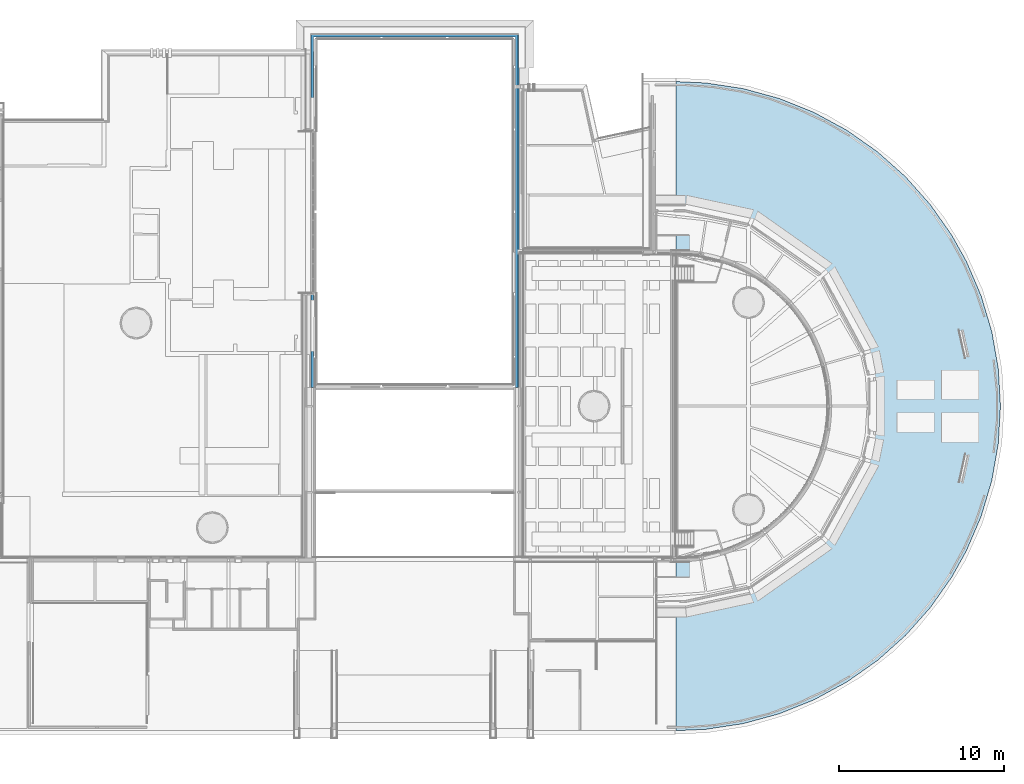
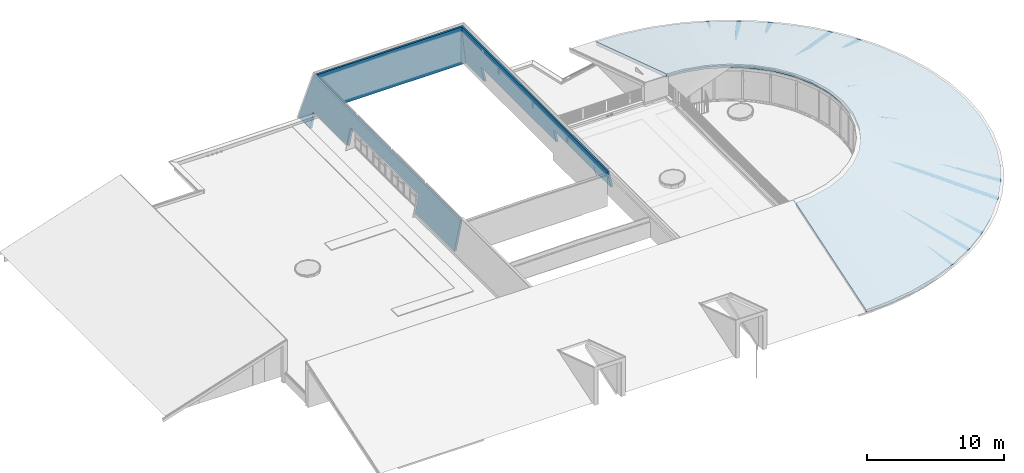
# One storey, part 54 of 66: 2 roofs.
"""IFC2X3 building model written with IfcOpenShell, lengths in millimetres."""

import ifcopenshell
import ifcopenshell.guid

model = None  # the IFC model being written
_history = None  # IfcOwnerHistory: only IFC2X3 demands one
_inside = {}  # id of a spatial element -> (the spatial element, [elements in it])
_under = {}  # id of a project, library or spatial element -> (it, [spatial elements below it])
_declared = {}  # id of a project -> (the project, [libraries it declares])
_typed = {}  # id of a type object -> (the type object, [elements of that type])
_made_of = {}  # id of a material, layer set ... -> (it, [elements and type objects made of it])


def new_model(schema):
    """Start an empty IFC model of exactly this schema.

    Asked for "IFC4X3", IfcOpenShell would pick the latest addendum, in which some entities
    have other attributes; the version numbers below select the first issue.
    IFC2X3 requires an IfcOwnerHistory on every rooted entity: one is made here for all.
    """
    global model, _history
    if schema == "IFC4X3":
        model = ifcopenshell.file(schema_version=(4, 3, 0, 0))
    else:
        model = ifcopenshell.file(schema=schema)
    _inside.clear()
    _under.clear()
    _declared.clear()
    _typed.clear()
    _made_of.clear()
    _history = None
    if model.schema == "IFC2X3":
        org = make("IfcOrganization", Name="unknown")
        user = make(
            "IfcPersonAndOrganization",
            ThePerson=make("IfcPerson", FamilyName="unknown"),
            TheOrganization=org,
        )
        app = make(
            "IfcApplication",
            ApplicationDeveloper=org,
            Version="unknown",
            ApplicationFullName="unknown",
            ApplicationIdentifier="unknown",
        )
        _history = make(
            "IfcOwnerHistory",
            OwningUser=user,
            OwningApplication=app,
            ChangeAction="ADDED",
            CreationDate=0,
        )
    return model


def make(cls, **values):
    """One entity of the class cls with the attributes given. An attribute that is None is left unset."""
    return model.create_entity(
        cls, **{name: value for name, value in values.items() if value is not None}
    )


def entity(cls, *values):
    """Any entity or typed value of the class cls, its attributes in the order of the schema. None: left unset."""
    e = model.create_entity(cls)
    for i, value in enumerate(values):
        if value is not None:
            e[i] = value
    return e


def rooted(cls, **values):
    """An entity with a GlobalId (a new one), such as an element, a storey or a relation."""
    return make(cls, GlobalId=ifcopenshell.guid.new(), OwnerHistory=_history, **values)


def si_unit(unit_type, name, prefix=None):
    """IfcSIUnit, for example si_unit("LENGTHUNIT", "METRE", prefix="MILLI")."""
    return make("IfcSIUnit", UnitType=unit_type, Prefix=prefix, Name=name)


def converted_unit(unit_type, name, factor, base, dimensions=None, offset=None):
    """IfcConversionBasedUnit, such as the inch: factor (a typed value) times the base unit."""
    return make(
        "IfcConversionBasedUnit"
        if offset is None
        else "IfcConversionBasedUnitWithOffset",
        ConversionOffset=offset,
        Dimensions=None
        if dimensions is None
        else entity("IfcDimensionalExponents", *dimensions),
        UnitType=unit_type,
        Name=name,
        ConversionFactor=make(
            "IfcMeasureWithUnit", ValueComponent=factor, UnitComponent=base
        ),
    )


def derived_unit(unit_type, elements):
    """IfcDerivedUnit: a product of units, each with its exponent."""
    return make(
        "IfcDerivedUnit",
        Elements=[
            make("IfcDerivedUnitElement", Unit=unit, Exponent=power)
            for unit, power in elements
        ],
        UnitType=unit_type,
    )


def assignment(units):
    """IfcUnitAssignment: the units of a project."""
    return None if units is None else make("IfcUnitAssignment", Units=units)


def point(xyz):
    """IfcCartesianPoint."""
    return None if xyz is None else make("IfcCartesianPoint", Coordinates=xyz)


def direction(xyz):
    """IfcDirection."""
    return None if xyz is None else make("IfcDirection", DirectionRatios=xyz)


def frame(location, z_axis=None, x_axis=None):
    """IfcAxis2Placement3D, a coordinate frame: its origin and axes. An axis left out is left unset."""
    return make(
        "IfcAxis2Placement3D",
        Location=point(location),
        Axis=direction(z_axis),
        RefDirection=direction(x_axis),
    )


def origin():
    """The frame at (0, 0, 0) with its axes left unset."""
    return frame((0.0, 0.0, 0.0))


def place(relative_to, where):
    """IfcLocalPlacement: puts the frame where relative to a parent placement (None: the world)."""
    return make(
        "IfcLocalPlacement", PlacementRelTo=relative_to, RelativePlacement=where
    )


def context(
    kind, dimensions, precision=None, world=None, true_north=None, identifier=None
):
    """IfcGeometricRepresentationContext, for example the 3D "Model" context."""
    return make(
        "IfcGeometricRepresentationContext",
        ContextIdentifier=identifier,
        ContextType=kind,
        CoordinateSpaceDimension=dimensions,
        Precision=precision,
        WorldCoordinateSystem=world,
        TrueNorth=true_north,
    )


def subcontext(parent, identifier, kind, view, scale=None):
    """IfcGeometricRepresentationSubContext, for example "Body" below "Model"."""
    return make(
        "IfcGeometricRepresentationSubContext",
        ContextIdentifier=identifier,
        ContextType=kind,
        ParentContext=parent,
        TargetScale=scale,
        TargetView=view,
    )


def project(units=None, contexts=None):
    """IfcProject with its units and contexts."""
    return rooted(
        "IfcProject",
        Name="project",
        RepresentationContexts=contexts,
        UnitsInContext=assignment(units),
    )


def spatial(cls, under=None, at=None, **own):
    """A site, building, storey or space (cls), placed at a placement, below another one or the project."""
    s = rooted(cls, ObjectPlacement=at, **own)
    if under is not None:
        _under.setdefault(under.id(), (under, []))[1].append(s)
    return s


def faces_of(points, faces, orient=None, outer=None):
    """IfcFace entities. A face is a list of loops; a loop is a list of indices into points, from 0.

    orient and outer hold one flag for each loop. By default every Orientation is true, the
    first loop of a face is its IfcFaceOuterBound and the others are IfcFaceBound.
    """
    made = []
    for i, loops in enumerate(faces):
        bounds = []
        for j, loop in enumerate(loops):
            is_outer = j == 0 if outer is None else outer[i][j]
            bounds.append(
                make(
                    "IfcFaceOuterBound" if is_outer else "IfcFaceBound",
                    Bound=make("IfcPolyLoop", Polygon=[points[k] for k in loop]),
                    Orientation=True if orient is None else orient[i][j],
                )
            )
        made.append(make("IfcFace", Bounds=bounds))
    return made


def faceted_brep(points, faces, orient=None, outer=None, voids=None):
    """IfcFacetedBrep: a solid bounded by flat faces; with voids (closed shells), ...WithVoids."""
    shared = [point(p) for p in points]
    hull = make("IfcClosedShell", CfsFaces=faces_of(shared, faces, orient, outer))
    if voids is None:
        return make("IfcFacetedBrep", Outer=hull)
    return make(
        "IfcFacetedBrepWithVoids",
        Outer=hull,
        Voids=[
            make(cls, CfsFaces=faces_of(shared, fs, o, b)) for cls, fs, o, b in voids
        ],
    )


def shape(context_of_items, identifier, shape_type, items):
    """IfcShapeRepresentation: the items that make up one representation, for example the "Body"."""
    return make(
        "IfcShapeRepresentation",
        ContextOfItems=context_of_items,
        RepresentationIdentifier=identifier,
        RepresentationType=shape_type,
        Items=items,
    )


def material(Name=None, Category=None):
    """IfcMaterial."""
    return make("IfcMaterial", Name=Name, Category=Category)


def layer(
    of_material, thickness, ventilated=None, Name=None, Category=None, Priority=None
):
    """IfcMaterialLayer: one layer of a wall or slab, of a material (None: an air gap)."""
    return make(
        "IfcMaterialLayer",
        Material=of_material,
        LayerThickness=thickness,
        IsVentilated=ventilated,
        Name=Name,
        Category=Category,
        Priority=Priority,
    )


def layer_set(layers, Name=None):
    """IfcMaterialLayerSet."""
    return make("IfcMaterialLayerSet", MaterialLayers=layers, LayerSetName=Name)


def made_of(thing, what):
    """Note that an element or type object is made of a material, layer set ...; save() writes the relation."""
    if what is not None:
        _made_of.setdefault(what.id(), (what, []))[1].append(thing)
    return thing


def element(
    cls,
    number,
    at=None,
    inside=None,
    cuts=None,
    type_object=None,
    material=None,
    context=None,
    identifier="Body",
    shape_type=None,
    held_by="IfcProductDefinitionShape",
    body=None,
    shapes=None,
    **own,
):
    """One element of the class cls, such as IfcWall. Its Tag is "e" and its number.

    at: its placement. inside: the storey or other place that contains it. cuts: it is an
    opening in that element (IfcRelVoidsElement). A single representation is given by context,
    identifier, shape_type and body (its items); several are given by shapes. held_by: the class
    of the entity that holds the representations. save() writes the other relations.
    """
    e = rooted(cls, Tag="e%d" % number, ObjectPlacement=at, **own)
    if body is not None:
        shapes = [shape(context, identifier, shape_type, body)]
    if shapes is not None:
        e.Representation = make(held_by, Representations=shapes)
    if inside is not None:
        _inside.setdefault(inside.id(), (inside, []))[1].append(e)
    if cuts is not None:
        rooted(
            "IfcRelVoidsElement", RelatingBuildingElement=cuts, RelatedOpeningElement=e
        )
    if type_object is not None:
        _typed.setdefault(type_object.id(), (type_object, []))[1].append(e)
    return made_of(e, material)


def aggregate(whole, parts):
    """IfcRelAggregates: a whole, such as a stair, and the parts it consists of."""
    return rooted("IfcRelAggregates", RelatingObject=whole, RelatedObjects=parts)


def save(model, path):
    """Write the relations noted so far, then the file.

    IfcRelAggregates (storeys below a building ...), IfcRelContainedInSpatialStructure (elements
    in a storey), IfcRelDefinesByType, IfcRelAssociatesMaterial and IfcRelDeclares: one each for
    every whole, place, type object, material and project.
    """
    for whole, parts in _under.values():
        aggregate(whole, parts)
    for where, things in _inside.values():
        rooted(
            "IfcRelContainedInSpatialStructure",
            RelatedElements=things,
            RelatingStructure=where,
        )
    for kind, things in _typed.values():
        rooted("IfcRelDefinesByType", RelatedObjects=things, RelatingType=kind)
    for what, things in _made_of.values():
        rooted("IfcRelAssociatesMaterial", RelatedObjects=things, RelatingMaterial=what)
    for by, libraries in _declared.values():
        rooted("IfcRelDeclares", RelatingContext=by, RelatedDefinitions=libraries)
    model.write(path)


model = new_model("IFC2X3")

# Units and contexts
model_context = context("Model", 3, precision=0.01, world=origin(), true_north=direction((6.12303176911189e-17, 1.0)))
body_context = subcontext(model_context, "Body", "Model", "MODEL_VIEW")
ifc_project = project(units=[si_unit("LENGTHUNIT", "METRE", prefix="MILLI"), si_unit("AREAUNIT", "SQUARE_METRE"), si_unit("VOLUMEUNIT", "CUBIC_METRE"), converted_unit("PLANEANGLEUNIT", "DEGREE", entity("IfcRatioMeasure", 0.0174532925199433), si_unit("PLANEANGLEUNIT", "RADIAN"), dimensions=[0, 0, 0, 0, 0, 0, 0]), si_unit("MASSUNIT", "GRAM", prefix="KILO"), derived_unit("MASSDENSITYUNIT", [(si_unit("MASSUNIT", "GRAM", prefix="KILO"), 1), (si_unit("LENGTHUNIT", "METRE"), -3)]), derived_unit("MOMENTOFINERTIAUNIT", [(si_unit("LENGTHUNIT", "METRE"), 4)]), si_unit("TIMEUNIT", "SECOND"), si_unit("FREQUENCYUNIT", "HERTZ"), si_unit("THERMODYNAMICTEMPERATUREUNIT", "DEGREE_CELSIUS"), derived_unit("THERMALTRANSMITTANCEUNIT", [(si_unit("MASSUNIT", "GRAM", prefix="KILO"), 1), (si_unit("THERMODYNAMICTEMPERATUREUNIT", "KELVIN"), -1), (si_unit("TIMEUNIT", "SECOND"), -3)]), derived_unit("VOLUMETRICFLOWRATEUNIT", [(si_unit("LENGTHUNIT", "METRE"), 3), (si_unit("TIMEUNIT", "SECOND"), -1)]), si_unit("ELECTRICCURRENTUNIT", "AMPERE"), si_unit("ELECTRICVOLTAGEUNIT", "VOLT"), si_unit("POWERUNIT", "WATT"), si_unit("FORCEUNIT", "NEWTON", prefix="KILO"), si_unit("ILLUMINANCEUNIT", "LUX"), si_unit("LUMINOUSFLUXUNIT", "LUMEN"), si_unit("LUMINOUSINTENSITYUNIT", "CANDELA"), derived_unit("USERDEFINED", [(si_unit("MASSUNIT", "GRAM", prefix="KILO"), -1), (si_unit("LENGTHUNIT", "METRE"), -2), (si_unit("TIMEUNIT", "SECOND"), 3), (si_unit("LUMINOUSFLUXUNIT", "LUMEN"), 1)]), derived_unit("LINEARVELOCITYUNIT", [(si_unit("LENGTHUNIT", "METRE"), 1), (si_unit("TIMEUNIT", "SECOND"), -1)]), si_unit("PRESSUREUNIT", "PASCAL"), derived_unit("USERDEFINED", [(si_unit("LENGTHUNIT", "METRE"), -2), (si_unit("MASSUNIT", "GRAM", prefix="KILO"), 1), (si_unit("TIMEUNIT", "SECOND"), -2)]), derived_unit("LINEARFORCEUNIT", [(si_unit("MASSUNIT", "GRAM", prefix="KILO"), 1), (si_unit("LENGTHUNIT", "METRE"), 1), (si_unit("TIMEUNIT", "SECOND"), -2), (si_unit("LENGTHUNIT", "METRE"), -1)]), derived_unit("PLANARFORCEUNIT", [(si_unit("MASSUNIT", "GRAM", prefix="KILO"), 1), (si_unit("LENGTHUNIT", "METRE"), 1), (si_unit("TIMEUNIT", "SECOND"), -2), (si_unit("LENGTHUNIT", "METRE"), -2)])], contexts=[model_context])

# Site, building, storey
site_placement = place(None, origin())
site = spatial("IfcSite", under=ifc_project, at=site_placement, Name="Default", CompositionType="ELEMENT")
building_placement = place(site_placement, origin())
building = spatial("IfcBuilding", under=site, at=building_placement, Name="-", CompositionType="ELEMENT")
storey_placement = place(building_placement, frame((0.0, 0.0, 3070.0)))
storey = spatial("IfcBuildingStorey", under=building, at=storey_placement, Name="01 eerste verdieping", CompositionType="ELEMENT", Elevation=3070.00000000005)

# Roofs
ifc_material_1 = material(Name="AL_Multiplex")
ifc_layer_1 = layer(ifc_material_1, 18.0)
ifc_material_2 = material(Name="NLRS_m1_isolatie")
ifc_layer_2 = layer(ifc_material_2, 271.0)
ifc_material_3 = material(Name="j7_hout_spaanplaat")
ifc_layer_3 = layer(ifc_material_3, 10.0)
ifc_layer_set_1 = layer_set([ifc_layer_1, ifc_layer_2, ifc_layer_3], Name="Basic Roof:27_Dakelement Rc 6,0m²K/W, aftimmerpakket")
roof_1_placement = place(storey_placement, frame((50644.2442615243, -89.5355013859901, -150.722646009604)))
element("IfcRoof", 1, at=roof_1_placement, inside=storey, material=ifc_layer_set_1, Name="Basic Roof:27_Dakelement Rc 6,0m²K/W, aftimmerpakket", ObjectType="Basic Roof:27_Dakelement Rc 6,0m²K/W, aftimmerpakket", ShapeType="NOTDEFINED", context=body_context, shape_type="Brep", body=[
    faceted_brep([(1.5952722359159, 6729.57307191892, 2157.62646626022), (1.5952722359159, 6675.36285048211, 2140.01249760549), (1.5952722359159, 6666.80334183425, 2137.23134466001), (1.5952722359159, 6658.2438331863, 2134.4501917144), (1.5952722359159, 3586.14751674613, 1136.26559101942), (1.5952722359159, 514.051200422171, 138.080989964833), (1.5952722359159, 509.540475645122, 136.615366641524), (1.5952722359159, 505.029750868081, 135.149743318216), (1.5952722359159, 299.510552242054, 68.3725077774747), (1.5952722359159, 93.9913536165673, 1.59527223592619), (1.5952722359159, 47.7933129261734, 143.778221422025), (1.5952722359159, 1.5952722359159, 285.961170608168), (1.5952722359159, 5698.26193075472, 2136.92036908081), (1.5952722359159, 10255.5952580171, 3617.68772648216), (1.5952722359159, 10255.5952580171, 3303.30052143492), (1.5952722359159, 8519.68927563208, 2739.27047834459), (1.5952722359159, 6783.78329335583, 2175.24043491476), (1.80254533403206, 39363.3971543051, 143.778221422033), (1.80254533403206, 39317.1991136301, 1.5952722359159), (1.80254533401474, 33671.8636152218, 1835.87596662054), (1.80254533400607, 29155.5952162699, 3303.30052143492), (1.80254533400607, 29155.5952162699, 3617.68772648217), (1.80254533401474, 34852.2618712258, 1766.72852913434), (1.80254533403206, 39409.59519498, 285.961170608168), (1112.33919140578, 39265.5032713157, 1.59527223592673), (268.797767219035, 29136.0675190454, 3303.30052143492), (8945.34958513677, 22666.6067755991, 3303.30052143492), (8828.75618462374, 23081.4649024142, 3303.30052143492), (18507.9849051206, 26198.3076342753, 1.59527223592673), (14560.6734410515, 32814.2462955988, 1.59527223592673), (6961.20438569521, 26055.3434131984, 3303.30052143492), (13950.11590951, 33492.3262347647, 1.59527223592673), (4079.37631851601, 38888.728599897, 1.59527223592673), (5179.12718009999, 38587.2077467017, 1.59527223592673), (2215.48440134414, 28852.2662699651, 3303.30052143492), (5691.87784830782, 12197.3125085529, 3303.30052143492), (11324.7625543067, 3733.21598547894, 1.59527223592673), (5336.87267876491, 11953.0327180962, 3303.30052143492), (8243.03586844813, 15080.3303067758, 3303.30052143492), (17070.3328359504, 10114.0612764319, 1.59527223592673), (7998.72502011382, 14725.3465102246, 3303.30052143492), (15171.2309725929, 32136.1663564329, 1.59527223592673), (7265.92506673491, 25750.6360240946, 3303.30052143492), (12255.2282837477, 35018.3744207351, 1.59527223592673), (6047.04234257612, 26969.4655805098, 3303.30052143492), (5692.04253106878, 27213.7531574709, 3303.30052143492), (6278.87804168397, 38285.6868935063, 1.59527223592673), (2634.3285574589, 28750.9210218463, 3303.30052143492), (9394.06553378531, 36884.3532221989, 1.59527223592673), (10394.6344145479, 36337.335217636, 1.59527223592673), (4627.04309654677, 27946.6158883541, 3303.30052143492), (11324.9313491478, 35677.8548191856, 1.59527223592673), (1796.64024522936, 28953.6115180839, 3303.30052143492), (2952.05674230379, 39060.5347568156, 1.59527223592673), (3052.97653860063, 10761.5477727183, 3303.30052143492), (6278.68168765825, 1125.43723779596, 1.59527223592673), (2634.13015971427, 10660.2117114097, 3303.30052143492), (6656.48370465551, 26360.0508023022, 3303.30052143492), (6351.76302361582, 26664.758191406, 3303.30052143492), (7466.62242596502, 25470.1213798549, 3303.30052143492), (15841.5105900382, 31213.6198714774, 1.59527223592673), (8638.74576438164, 23468.2430385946, 3303.30052143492), (18068.5315467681, 27250.5659335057, 1.59527223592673), (8393.30932725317, 1979.73055728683, 1.59527223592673), (4233.3908894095, 11288.7417960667, 3303.30052143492), (9393.88398882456, 2526.73798784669, 1.59527223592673), (9413.0212466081, 20134.6267941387, 3303.30052143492), (9373.72409329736, 20563.761994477, 3303.30052143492), (19559.5439349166, 20616.4024293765, 1.59527223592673), (9452.31839991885, 19705.4915938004, 3303.30052143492), (9334.42693998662, 20992.8971948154, 3303.30052143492), (9295.12978667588, 21422.0323951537, 3303.30052143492), (19321.5592809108, 22880.7443862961, 1.59527223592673), (6046.88301785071, 12441.5922990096, 3303.30052143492), (12255.0664582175, 4392.68655255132, 1.59527223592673), (9061.9429856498, 22251.748648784, 3303.30052143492), (18822.3045398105, 25102.1461727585, 1.59527223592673), (9178.53638616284, 21836.8905219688, 3303.30052143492), (19506.4943873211, 21755.5040613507, 1.59527223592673), (4233.57550080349, 28122.3558596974, 3303.30052143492), (7335.99550745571, 1552.58389754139, 1.59527223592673), (3839.91943913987, 11113.0104549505, 3303.30052143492), (9334.39870249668, 18418.0885788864, 3303.30052143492), (19321.525724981, 16530.2419096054, 1.59527223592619), (9295.09213668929, 17988.9542405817, 3303.30052143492), (6961.06511079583, 13355.6944151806, 3303.30052143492), (7265.79247511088, 13660.3951205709, 3303.30052143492), (14398.2402465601, 6436.37993478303, 1.59527223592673), (6656.3377464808, 13050.9937097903, 3303.30052143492), (7336.18734735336, 37858.529060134, 1.59527223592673), (8393.49665302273, 37431.3712267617, 1.59527223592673), (3840.10790506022, 28298.0958310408, 3303.30052143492), (689.799317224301, 29105.2759912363, 3303.30052143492), (1221.06240606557, 39260.4421702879, 1.59527223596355), (1824.73716609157, 39232.3409137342, 1.59527223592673), (19136.6241745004, 24005.9847112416, 1.59527223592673), (13102.6720966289, 34255.3503277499, 1.59527223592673), (19136.5787270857, 15405.0035391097, 1.59527223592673), (7868.01714442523, 24909.0920913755, 3303.30052143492), (7667.31978519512, 25189.6067356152, 3303.30052143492), (5337.04271956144, 27458.0407344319, 3303.30052143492), (268.590922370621, 10275.1170990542, 3303.30052143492), (3446.64030931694, 28473.8358023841, 3303.30052143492), (3053.17271357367, 28649.5757737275, 3303.30052143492), (8448.73534413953, 23855.021174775, 3303.30052143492), (8258.72492389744, 24241.7993109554, 3303.30052143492), (17629.0781884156, 28302.824232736, 1.59527223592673), (5178.9276396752, 823.928006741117, 1.59527223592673), (4079.17359169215, 522.418775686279, 1.59527223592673), (2215.28378082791, 10558.8756501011, 3303.30052143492), (19506.4727228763, 17655.4802801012, 1.59527223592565), (9373.70526830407, 18847.222917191, 3303.30052143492), (4982.04290805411, 27702.328311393, 3303.30052143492), (19612.5934825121, 19477.3007974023, 1.59527223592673), (9413.01183411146, 19276.3572554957, 3303.30052143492), (19559.5331026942, 18566.3905387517, 1.59527223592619), (4981.86750922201, 11708.7529276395, 3303.30052143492), (10394.4586503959, 3073.74541840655, 1.59527223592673), (4626.86233967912, 11464.4731371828, 3303.30052143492), (9061.88713700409, 17159.2431017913, 3303.30052143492), (9178.48963684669, 17574.0986711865, 3303.30052143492), (18822.2475082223, 14308.8453993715, 1.59527223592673), (8945.28463716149, 16744.3875323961, 3303.30052143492), (18507.9162893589, 13212.6872596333, 1.59527223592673), (1033.79770316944, 29080.1163787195, 3303.30052143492), (3446.44798887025, 10937.2791138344, 3303.30052143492), (16511.6783396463, 9119.94260332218, 1.59527223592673), (15841.3889728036, 8197.40320190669, 1.59527223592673), (7754.4141717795, 14370.3627136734, 3303.30052143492), (8068.71450365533, 24628.5774471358, 3303.30052143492), (17070.4341979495, 29296.9488096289, 1.59527223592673), (17628.9873322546, 11108.1799495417, 1.59527223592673), (8389.44743566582, 15392.6307208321, 3303.30052143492), (1377.7960891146, 29054.9567662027, 3303.30052143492), (8535.85900288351, 15704.9311348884, 3303.30052143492), (8682.2705701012, 16017.2315489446, 3303.30052143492), (8828.68213731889, 16329.5319630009, 3303.30052143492), (18068.4518108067, 12160.4336045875, 1.59527223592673), (1796.43740194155, 10457.5395887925, 3303.30052143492), (2951.85219990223, 350.624532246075, 1.59527223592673), (1377.5910230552, 10356.2035274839, 3303.30052143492), (16511.7902074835, 30291.0733865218, 1.59527223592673), (1112.13246458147, 145.675459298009, 1.5952722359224), (689.593147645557, 10305.8993927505, 3303.30052143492), (13625.3808871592, 5597.89606907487, 1.59527223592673), (15171.0996059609, 7274.8638004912, 1.59527223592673), (7510.10332344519, 14015.3789171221, 3303.30052143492), (6351.61038216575, 12746.2930043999, 3303.30052143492), (12940.2236726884, 4995.29131081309, 1.59527223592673), (1824.53080811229, 178.830288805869, 1.59527223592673), (847.164436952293, 10317.4204855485, 3303.30052143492), (1033.59208535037, 10331.0514601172, 3303.30052143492), (1220.85573336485, 150.735411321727, 1.59527223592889), (266.190144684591, 29136.2582373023, 3617.68772648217), (1106.69742291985, 39358.5407866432, 285.961170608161), (6656.3377464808, 13050.9937097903, 3617.68772648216), (6351.61038216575, 12746.2930043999, 3617.68772648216), (13934.8580909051, 5772.47093437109, 285.961170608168), (6961.06511079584, 13355.6944151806, 3617.68772648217), (12236.4602890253, 35151.4162549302, 285.961170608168), (6047.04234257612, 26969.4655805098, 3617.68772648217), (13085.7324677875, 34394.9946151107, 285.961170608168), (9061.88713700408, 17159.2431017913, 3617.68772648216), (18859.0367616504, 14103.9570245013, 285.961170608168), (19182.8972108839, 15194.1640416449, 285.961170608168), (1106.49068679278, 52.6380582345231, 285.961170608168), (9373.70526830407, 18847.222917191, 3617.68772648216), (19575.0196918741, 17434.6969432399, 285.961170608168), (19640.6690317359, 18570.0942723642, 285.961170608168), (5166.30614802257, 38686.8335588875, 285.961170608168), (2215.48440134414, 28852.2662699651, 3617.68772648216), (2634.3285574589, 28750.9210218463, 3617.68772648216), (4068.89997036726, 38985.3911112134, 285.961170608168), (10374.885016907, 36458.4301146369, 285.961170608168), (4627.04309654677, 27946.6158883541, 3617.68772648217), (4982.04290805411, 27702.328311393, 3617.68772648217), (5337.04271956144, 27458.0407344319, 3617.68772648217), (2634.13015971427, 10660.2117114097, 3617.68772648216), (6263.51581041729, 1022.8485943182, 285.961170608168), (3052.97653860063, 10761.5477727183, 3617.68772648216), (265.983295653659, 10274.926437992, 3617.68772648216), (12236.2978205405, 4259.64552105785, 285.961170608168), (6046.88301785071, 12441.5922990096, 3617.68772648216), (5691.87784830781, 12197.3125085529, 3617.68772648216), (7265.92506673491, 25750.6360240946, 3617.68772648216), (14691.4440544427, 32789.3166223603, 285.961170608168), (6961.20438569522, 26055.3434131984, 3617.68772648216), (18087.8323854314, 11968.1304102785, 285.961170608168), (8828.68213731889, 16329.5319630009, 3617.68772648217), (8638.66323366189, 15942.7579945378, 3617.68772648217), (13935.0046465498, 33638.5729752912, 285.961170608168), (6351.76302361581, 26664.758191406, 3617.68772648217), (6656.48370465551, 26360.0508023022, 3617.68772648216), (18087.9137714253, 27442.8698164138, 285.961170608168), (8535.94675004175, 23706.07215306, 3617.68772648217), (8682.35146733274, 23393.7685277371, 3617.68772648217), (8828.75618462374, 23081.4649024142, 3617.68772648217), (15447.8834623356, 31940.0602694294, 285.961170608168), (7510.22812891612, 25395.6468689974, 3617.68772648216), (16101.4098657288, 31009.2863060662, 285.961170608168), (19640.6809744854, 20840.8896210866, 285.961170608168), (9373.72409329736, 20563.761994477, 3617.68772648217), (9413.0212466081, 20134.6267941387, 3617.68772648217), (9374.98550371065, 37000.3137684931, 285.961170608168), (4233.57550080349, 28122.3558596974, 3617.68772648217), (8374.89837466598, 1868.9049698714, 285.961170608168), (3839.91943913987, 11113.0104549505, 3617.68772648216), (7319.20709254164, 1445.8767820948, 285.961170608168), (19182.9446635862, 24216.8246667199, 285.961170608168), (9061.9429856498, 22251.748648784, 3617.68772648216), (9178.53638616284, 21836.8905219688, 3617.68772648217), (9295.12978667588, 21422.0323951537, 3617.68772648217), (17640.4884584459, 10922.5108131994, 285.961170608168), (6263.7123256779, 38388.2760065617, 285.961170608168), (7319.3991580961, 37965.2367144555, 285.961170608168), (3840.10790506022, 28298.0958310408, 3617.68772648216), (8375.08599051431, 37542.1974223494, 285.961170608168), (16754.8271600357, 9332.50190514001, 285.961170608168), (7867.90301079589, 14501.9258470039, 3617.68772648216), (16101.2909662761, 8401.73481598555, 285.961170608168), (11305.5033105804, 3606.14838178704, 285.961170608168), (2215.28378082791, 10558.8756501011, 3617.68772648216), (4068.69717443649, 425.756575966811, 285.961170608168), (5166.10649242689, 724.302585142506, 285.961170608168), (689.799317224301, 29105.2759912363, 3617.68772648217), (1819.89676794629, 39325.5856419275, 285.961170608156), (1226.83261899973, 39352.9896419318, 285.961170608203), (9334.39870249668, 18418.0885788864, 3617.68772648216), (19378.958451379, 16314.4304924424, 285.961170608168), (7754.53119109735, 25040.6577139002, 3617.68772648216), (8243.13731545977, 24330.6794037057, 3617.68772648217), (16754.936269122, 30078.512342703, 285.961170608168), (7998.83425327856, 24685.6685588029, 3617.68772648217), (18859.0956817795, 25307.035090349, 285.961170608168), (8945.34958513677, 22666.6067755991, 3617.68772648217), (1033.79770316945, 29080.1163787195, 3617.68772648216), (9452.31839991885, 19705.4915938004, 3617.68772648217), (19706.3183715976, 19705.4916014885, 285.961170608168), (18535.2466999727, 26397.2455139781, 285.961170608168), (14691.3064317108, 6621.71933060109, 285.961170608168), (7265.79247511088, 13660.3951205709, 3617.68772648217), (17197.7585559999, 29283.5032307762, 285.961170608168), (8389.54203275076, 24018.3757783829, 3617.68772648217), (3446.64030931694, 28473.8358023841, 3617.68772648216), (3053.17271357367, 28649.5757737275, 3617.68772648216), (15447.7547725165, 7470.96772683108, 285.961170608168), (8068.60652269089, 14782.4360891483, 3617.68772648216), (17197.6578092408, 10127.5063591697, 285.961170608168), (8258.62542634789, 15169.2100576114, 3617.68772648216), (2944.39836915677, 39155.4883765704, 285.961170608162), (1796.64024522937, 28953.6115180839, 3617.68772648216), (8945.28463716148, 16744.3875323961, 3617.68772648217), (18535.176312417, 13013.7500073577, 285.961170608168), (9295.09213668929, 17988.9542405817, 3617.68772648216), (13085.5779557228, 5016.05822771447, 285.961170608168), (1377.7960891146, 29054.9567662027, 3617.68772648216), (1377.5910230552, 10356.2035274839, 3617.68772648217), (2944.19378410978, 255.671138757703, 285.961170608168), (1796.43740194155, 10457.5395887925, 3617.68772648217), (19575.0435773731, 21976.2876406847, 285.961170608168), (5692.04253106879, 27213.7531574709, 3617.68772648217), (3446.44798887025, 10937.2791138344, 3617.68772648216), (10374.7088006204, 2952.65124251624, 285.961170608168), (5336.87267876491, 11953.0327180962, 3617.68772648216), (4981.86750922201, 11708.7529276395, 3617.68772648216), (4626.86233967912, 11464.4731371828, 3617.68772648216), (17640.5808428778, 28488.4941188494, 285.961170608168), (1033.59208535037, 10331.0514601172, 3617.68772648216), (689.593147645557, 10305.8993927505, 3617.68772648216), (1819.69039378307, 85.5857015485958, 285.961170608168), (7667.19949890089, 14221.4156048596, 3617.68772648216), (7466.49598700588, 13940.9053627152, 3617.68772648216), (9178.48963684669, 17574.0986711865, 3617.68772648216), (8448.64433000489, 15555.9840260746, 3617.68772648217), (9374.80358764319, 2410.77810619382, 285.961170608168), (4233.3908894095, 11288.7417960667, 3617.68772648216), (9413.01183411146, 19276.3572554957, 3617.68772648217), (19378.9941204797, 23096.5561537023, 285.961170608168), (9334.42693998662, 20992.8971948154, 3617.68772648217), (11305.6726529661, 35804.9231847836, 285.961170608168), (1226.6259567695, 58.1879399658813, 285.961170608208)], [[[0, 1, 2, 3, 4, 5, 6, 7, 8, 9, 10, 11, 12, 13, 14, 15, 16]], [[17, 18, 19, 20, 21, 22, 23]], [[24, 25, 19]], [[26, 27, 28]], [[29, 30, 31]], [[32, 33, 34]], [[35, 36, 37]], [[25, 20, 19]], [[38, 39, 40]], [[19, 18, 24]], [[29, 41, 42]], [[43, 44, 45]], [[33, 46, 47]], [[48, 49, 50]], [[43, 45, 51]], [[32, 52, 53]], [[42, 30, 29]], [[54, 55, 56]], [[57, 58, 31, 30]], [[59, 41, 60]], [[27, 61, 62]], [[63, 64, 65]], [[66, 67, 68, 69]], [[70, 71, 72]], [[35, 73, 74]], [[75, 26, 76, 77]], [[68, 67, 78]], [[50, 79, 48]], [[80, 81, 63]], [[82, 83, 84]], [[85, 86, 87, 88]], [[89, 90, 91]], [[79, 90, 48]], [[92, 24, 93, 94]], [[77, 76, 95]], [[31, 58, 96]], [[83, 97, 84]], [[98, 99, 59, 60]], [[49, 51, 100]], [[100, 51, 45]], [[101, 15, 14]], [[46, 102, 103]], [[61, 104, 105, 106]], [[107, 108, 109]], [[110, 82, 111]], [[95, 71, 77]], [[78, 67, 70]], [[49, 100, 112, 50]], [[69, 68, 113]], [[111, 114, 115]], [[116, 37, 117, 118]], [[79, 91, 90]], [[63, 81, 64]], [[119, 120, 121, 122]], [[47, 34, 33]], [[123, 122, 121]], [[26, 28, 76]], [[36, 117, 37]], [[124, 92, 94]], [[118, 117, 65]], [[54, 125, 55]], [[126, 127, 128]], [[105, 129, 130]], [[131, 39, 132]], [[53, 133, 124]], [[115, 110, 111]], [[134, 135, 136, 137]], [[138, 139, 140]], [[89, 102, 46]], [[3, 2, 101]], [[24, 92, 25]], [[1, 0, 16, 101, 2]], [[96, 44, 43]], [[98, 141, 129]], [[15, 101, 16]], [[7, 6, 5, 4, 142, 9, 8]], [[142, 101, 143]], [[129, 141, 130]], [[101, 4, 3]], [[83, 82, 110]], [[91, 102, 89]], [[74, 36, 35]], [[118, 65, 64]], [[125, 81, 80]], [[62, 28, 27]], [[114, 69, 113]], [[87, 144, 88]], [[127, 145, 146]], [[58, 44, 96]], [[147, 148, 73]], [[62, 61, 106]], [[149, 143, 150, 151]], [[32, 34, 52]], [[142, 4, 101]], [[139, 138, 108]], [[133, 53, 52]], [[107, 56, 55]], [[126, 128, 40]], [[151, 139, 149]], [[46, 103, 47]], [[120, 84, 97]], [[55, 125, 80]], [[105, 130, 106]], [[71, 95, 72]], [[115, 114, 113]], [[70, 72, 78]], [[121, 120, 97]], [[123, 136, 122]], [[146, 128, 127]], [[145, 86, 146]], [[147, 88, 144]], [[138, 109, 108]], [[132, 134, 131]], [[123, 137, 136]], [[143, 149, 152, 142]], [[94, 53, 124]], [[141, 98, 60]], [[59, 42, 41]], [[145, 87, 86]], [[126, 40, 39]], [[131, 134, 137]], [[107, 109, 56]], [[74, 73, 148]], [[147, 144, 148]], [[39, 38, 132]], [[140, 139, 151]], [[22, 153, 154]], [[155, 156, 157, 158]], [[159, 160, 161]], [[162, 163, 164]], [[12, 11, 165]], [[154, 23, 22]], [[166, 167, 168]], [[169, 170, 171]], [[170, 169, 172]], [[173, 174, 175, 176]], [[177, 178, 179]], [[180, 13, 12]], [[181, 182, 183]], [[184, 185, 186]], [[187, 188, 189]], [[190, 191, 192, 186]], [[193, 194, 195, 196]], [[197, 198, 199]], [[200, 201, 202]], [[203, 204, 174]], [[205, 206, 207]], [[208, 209, 210, 211]], [[212, 187, 189]], [[171, 213, 169]], [[214, 215, 216]], [[217, 218, 219]], [[181, 183, 220]], [[221, 222, 223]], [[190, 161, 191]], [[224, 225, 226, 154]], [[203, 216, 204]], [[167, 227, 228]], [[153, 224, 154]], [[198, 229, 199]], [[230, 231, 229, 232]], [[209, 208, 233]], [[233, 234, 209]], [[216, 215, 204]], [[225, 224, 235]], [[202, 236, 237]], [[233, 238, 234]], [[190, 186, 185]], [[239, 240, 158]], [[241, 230, 242]], [[243, 213, 244]], [[240, 239, 245]], [[246, 247, 248]], [[249, 250, 172]], [[174, 173, 203]], [[163, 251, 252]], [[228, 227, 253]], [[182, 181, 254]], [[235, 255, 249]], [[256, 257, 258]], [[200, 259, 201]], [[260, 160, 159]], [[222, 258, 257]], [[178, 261, 179]], [[22, 21, 153]], [[262, 263, 264, 265]], [[197, 184, 198]], [[194, 193, 266]], [[213, 243, 214]], [[267, 268, 269]], [[165, 180, 12]], [[252, 188, 187]], [[219, 218, 270, 271]], [[207, 206, 261]], [[253, 272, 162, 164]], [[251, 163, 162]], [[237, 200, 202]], [[157, 156, 254]], [[246, 217, 247]], [[212, 189, 273, 248]], [[178, 177, 223]], [[257, 267, 269]], [[161, 160, 191]], [[274, 275, 205]], [[182, 254, 156]], [[180, 165, 268]], [[275, 274, 265]], [[183, 263, 220]], [[240, 245, 271]], [[184, 197, 185]], [[207, 261, 178]], [[158, 157, 239]], [[171, 244, 213]], [[253, 164, 228]], [[237, 276, 168]], [[265, 274, 262]], [[242, 194, 266]], [[241, 231, 230]], [[238, 196, 234]], [[277, 278, 259]], [[277, 208, 211]], [[212, 248, 247]], [[250, 249, 255]], [[250, 170, 172]], [[260, 279, 176]], [[251, 188, 252]], [[167, 166, 227]], [[222, 221, 258]], [[263, 262, 220]], [[275, 206, 205]], [[268, 165, 280, 269]], [[235, 249, 225]], [[219, 271, 245]], [[218, 217, 246]], [[243, 215, 214]], [[193, 196, 238]], [[276, 237, 236]], [[276, 166, 168]], [[279, 260, 159]], [[279, 173, 176]], [[177, 221, 223]], [[229, 231, 199]], [[241, 242, 266]], [[278, 277, 211]], [[278, 201, 259]], [[267, 257, 256]], [[94, 225, 249]], [[107, 55, 178]], [[207, 80, 205]], [[257, 139, 222]], [[17, 93, 24, 18]], [[269, 152, 149]], [[222, 139, 108]], [[93, 225, 94]], [[10, 9, 142, 152]], [[107, 178, 223]], [[274, 65, 262]], [[107, 223, 108]], [[247, 217, 39, 212]], [[29, 31, 185, 41]], [[187, 137, 252]], [[74, 148, 181]], [[145, 245, 239]], [[163, 121, 164]], [[254, 144, 157]], [[144, 87, 157]], [[190, 185, 31]], [[145, 127, 245]], [[181, 220, 36]], [[148, 144, 254]], [[228, 83, 167]], [[10, 280, 165, 11]], [[10, 152, 280]], [[223, 222, 108]], [[257, 269, 149]], [[249, 172, 53]], [[93, 226, 225]], [[80, 63, 205]], [[207, 178, 55]], [[205, 63, 274]], [[214, 216, 89]], [[262, 117, 220]], [[257, 149, 139]], [[169, 213, 33]], [[239, 157, 87]], [[65, 117, 262]], [[87, 145, 239]], [[127, 126, 219]], [[32, 172, 169]], [[36, 74, 181]], [[39, 131, 212]], [[279, 159, 51]], [[212, 131, 187]], [[163, 252, 123]], [[36, 220, 117]], [[164, 97, 228]], [[65, 274, 63]], [[115, 113, 168, 110]], [[46, 213, 214]], [[168, 167, 110]], [[28, 62, 238]], [[130, 266, 106]], [[241, 266, 130, 231]], [[130, 141, 231]], [[113, 68, 237]], [[60, 199, 141]], [[78, 72, 259]], [[126, 217, 219]], [[60, 41, 197]], [[95, 76, 208]], [[199, 60, 197]], [[219, 245, 127]], [[90, 89, 216]], [[46, 33, 213]], [[233, 208, 76]], [[28, 238, 233]], [[32, 53, 172]], [[31, 96, 190]], [[43, 51, 159]], [[200, 237, 68]], [[78, 259, 200]], [[49, 48, 173]], [[168, 113, 237]], [[39, 217, 126]], [[226, 93, 17]], [[76, 28, 233]], [[62, 106, 193]], [[90, 216, 203]], [[203, 173, 48]], [[43, 159, 161]], [[137, 187, 131]], [[199, 231, 141]], [[197, 41, 185]], [[137, 123, 252]], [[72, 95, 277]], [[161, 190, 96]], [[106, 266, 193]], [[51, 49, 279]], [[89, 46, 214]], [[48, 90, 203]], [[96, 43, 161]], [[121, 97, 164]], [[83, 110, 167]], [[33, 32, 169]], [[277, 259, 72]], [[53, 94, 249]], [[152, 269, 280]], [[83, 228, 97]], [[80, 207, 55]], [[121, 163, 123]], [[17, 23, 154, 226]], [[193, 238, 62]], [[95, 208, 277]], [[68, 78, 200]], [[148, 254, 181]], [[49, 173, 279]], [[244, 171, 170, 250, 255, 133, 52, 34, 47, 103]], [[27, 196, 195, 194]], [[20, 25, 92, 124, 133, 255, 235, 224, 153, 21]], [[128, 270, 218, 246]], [[103, 102, 91, 79, 50, 174, 204, 215, 243, 244]], [[104, 194, 242, 230]], [[86, 240, 271, 270]], [[134, 273, 189, 188]], [[44, 58, 57, 30, 42, 184, 186, 192, 191, 160]], [[256, 140, 151, 150, 143, 101, 14, 13, 180, 268, 267]], [[246, 38, 40, 128]], [[129, 230, 232, 229]], [[50, 112, 100, 45, 44, 160, 260, 176, 175, 174]], [[188, 136, 135, 134]], [[27, 26, 75, 77, 71, 211, 210, 209, 234, 196]], [[236, 202, 201, 278, 211, 71, 70, 67, 66, 69]], [[229, 99, 98, 129]], [[194, 104, 61, 27]], [[38, 246, 248, 273]], [[84, 120, 119, 122, 136, 188, 251, 162, 272, 253]], [[230, 129, 105, 104]], [[54, 56, 109, 138, 140, 256, 258, 221, 177, 179]], [[179, 261, 206, 275, 265, 118, 64, 81, 125, 54]], [[73, 35, 37, 116, 118, 265, 264, 263, 183, 182]], [[166, 276, 236, 69, 114, 111, 82, 84, 253, 227]], [[182, 156, 155, 158, 240, 86, 85, 88, 147, 73]], [[273, 134, 132, 38]], [[270, 128, 146, 86]], [[99, 229, 198, 184]], [[184, 42, 59, 99]]]),
])
ifc_material_4 = material(Name="NLRS_h4_aluminium sandwichpaneel verticaal geprofileerd bestaand")
ifc_layer_4 = layer(ifc_material_4, 180.0)
ifc_layer_set_2 = layer_set([ifc_layer_4], Name="Basic Roof:NLRS_27_RO_Bestaande dak gymzaal")
roof_2_placement = place(storey_placement, frame((27681.0, 20761.3202504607, -785.050886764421)))
element("IfcRoof", 2, at=roof_2_placement, inside=storey, material=ifc_layer_set_2, Name="Basic Roof:NLRS_27_RO_Bestaande dak gymzaal", ObjectType="Basic Roof:NLRS_27_RO_Bestaande dak gymzaal", ShapeType="NOTDEFINED", context=body_context, shape_type="Brep", body=[
    faceted_brep([(13211.0, 21276.5000000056, 3883.8839958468), (14008.2468885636, 22073.7468885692, 0.0), (14008.2468885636, 19379.5373134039, 0.0), (13725.476301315, 19379.537313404, 1377.55088676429), (13725.476301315, 17997.7497026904, 1377.55088676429), (13725.476301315, 8385.67511206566, 1377.55088676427), (13689.040783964, 8385.67511206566, 1555.05088676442), (13492.5968960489, 8385.67511206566, 2512.05088676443), (13492.5968960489, 8385.38653199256, 2512.05088676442), (13492.5631305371, 8385.38653199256, 2512.21537951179), (13492.5631305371, 8176.23616745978, 2512.21537951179), (13492.5631305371, 0.0, 2512.21537951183), (13473.5938144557, 0.0, 2604.62668170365), (13236.0, 0.0, 3762.09349244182), (13236.0, 21276.5000000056, 3762.09349244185), (183.753111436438, 22073.7468885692, 0.0), (981.0, 21276.5000000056, 3883.8839958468), (965.991787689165, 21276.5000000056, 3810.76968654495), (965.991787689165, 0.0, 3810.76968654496), (490.642984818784, 0.0, 1495.05088676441), (467.840457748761, 0.0, 1383.96563673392), (467.840457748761, 5605.65663229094, 1383.96563673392), (467.840457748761, 5712.65663229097, 1383.96563673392), (777.05770357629, 5712.65663229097, 2890.35459796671), (777.05770357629, 15527.7350954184, 2890.35459796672), (467.840457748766, 15527.7350954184, 1383.96563673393), (467.840457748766, 20527.4339056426, 1383.96563673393), (183.753111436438, 20527.4339056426, 0.0), (14192.0, 19379.537313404, 0.0), (14192.0, 22257.5000000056, 0.0), (13373.2627600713, 21438.7627600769, 3988.57682429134), (13373.2627600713, 0.0, 3988.57682429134), (13657.3469258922, 0.0, 2604.62668170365), (13668.886675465, 0.0, 2548.40940531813), (13668.886675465, 8176.23616745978, 2548.40940531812), (13668.886675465, 8385.38653199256, 2548.4094053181), (13676.3500074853, 8385.38653199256, 2512.05088676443), (13676.3500074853, 8385.67511206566, 2512.05088676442), (13909.2294127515, 8385.67511206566, 1377.55088676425), (13909.2294127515, 19379.5373134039, 1377.55088676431), (0.0, 22257.5000000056, 0.0), (818.737239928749, 21438.7627600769, 3988.57682429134), (0.0, 20527.4339056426, 0.0), (291.516912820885, 20527.4339056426, 1420.15966254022), (291.516912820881, 15527.7350954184, 1420.1596625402), (593.304592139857, 15527.7350954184, 2890.35459796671), (593.304592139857, 5712.65663229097, 2890.35459796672), (291.516912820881, 5712.65663229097, 1420.15966254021), (291.516912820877, 0.0, 1420.15966254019), (818.737239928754, 0.0, 3988.57682429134), (965.991787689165, 21276.5000000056, 3988.57682429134), (965.991787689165, 0.0, 3988.57682429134), (13236.0, 21276.5000000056, 3988.57682429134), (13236.0, 0.0, 3988.57682429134), (455.448133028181, 5712.65663229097, 1386.50941567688), (305.448133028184, 5712.65663229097, 1417.29999372), (13732.2062373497, 8385.67511206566, 1377.55088676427), (413.864577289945, 0.0, 1395.04529379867), (455.448133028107, 0.0, 1386.50941567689), (13585.2547679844, 0.0, 2531.24224015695), (13536.6645167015, 0.0, 2521.26809399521)], [[[0, 1, 2, 3, 4, 5, 6, 7, 8, 9, 10, 11, 12, 13, 14]], [[15, 1, 0, 16]], [[15, 16, 17, 18, 19, 20, 21, 22, 23, 24, 25, 26, 27]], [[28, 29, 30, 31, 32, 33, 34, 35, 36, 37, 38, 39]], [[29, 40, 41, 30]], [[41, 40, 42, 43, 44, 45, 46, 47, 48, 49]], [[1, 15, 27, 42, 40, 29, 28, 2]], [[18, 17, 50, 51]], [[0, 14, 52, 50, 17, 16]], [[14, 13, 53, 52]], [[53, 31, 30, 41, 49, 51, 50, 52]], [[23, 46, 45, 24]], [[44, 25, 24, 45]], [[26, 43, 42, 27]], [[46, 23, 22, 54, 55, 47]], [[37, 7, 6, 5, 56, 38]], [[39, 3, 2, 28]], [[3, 39, 38, 56, 5, 4]], [[7, 37, 36, 8]], [[51, 49, 48, 57, 58, 20, 19, 18]], [[25, 44, 43, 26]], [[8, 36, 35, 9]], [[33, 59, 60, 11, 10, 9, 35, 34]], [[47, 55, 54, 22, 21, 20, 58, 57, 48]], [[31, 53, 13, 12, 11, 60, 59, 33, 32]]]),
])

save(model, "model.ifc")
